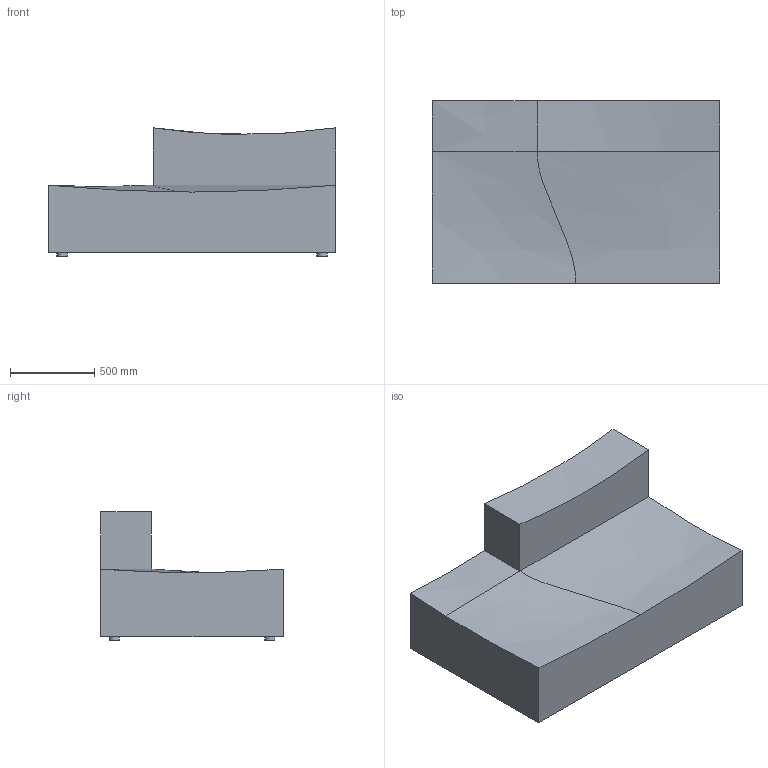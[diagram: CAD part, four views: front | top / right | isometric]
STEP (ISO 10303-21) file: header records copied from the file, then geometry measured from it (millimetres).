
FILE_DESCRIPTION(/* description */ (''),/* implementation_level */ '2;1');
FILE_NAME(/* name */ 'OCV4IH~E',/* time_stamp */ '2020-03-19T15:26:27+01:00',/* author */ (''),/* organization */ (''),/* preprocessor_version */ 'ST-DEVELOPER v16.5',/* originating_system */ '',/* authorisation */ '');
FILE_SCHEMA (('AUTOMOTIVE_DESIGN'));
Length unit declared in the file: millimetre
Products named in the file (1): Document
Bounding box: 1700 x 1080 x 760 mm (x, y, z)
Volume: 801453804.4 mm3; surface area: 7848427.7 mm2
Topology: 6 solids, 6 shells, 28 faces, 46 edges, 30 vertices
Faces by surface type: plane 20, bspline 8
Entity records: 864 total; most frequent: CARTESIAN_POINT 425, ORIENTED_EDGE 92, EDGE_CURVE 46, B_SPLINE_CURVE_WITH_KNOTS 34, VERTEX_POINT 30, ADVANCED_FACE 28, FACE_OUTER_BOUND 28, EDGE_LOOP 28
